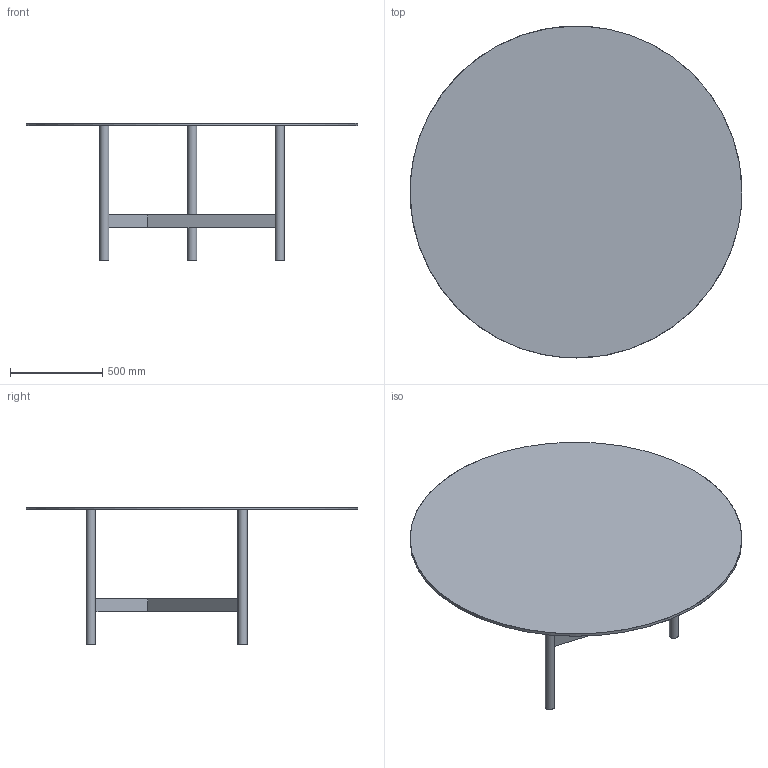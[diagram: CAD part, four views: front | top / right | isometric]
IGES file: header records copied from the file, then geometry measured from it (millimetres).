
Global section: file name: C:\Users\l.marzoli\Desktop\3D_files_2022\AGOS-table_3D\d180\AGOS-d180.igs; native system: Rhinoceros ( Aug 11 2021 ); preprocessor: Trout Lake IGES 012 Aug 11 2021; date: 221018.162039; units: millimetre
Bounding box: 1800 x 1800 x 748.15 mm (x, y, z)
Surface area: 5929606.5 mm2 (no closed solid volume)
Topology: 0 solids, 0 shells, 26 faces, 116 edges, 112 vertices
Faces by surface type: bspline 26
